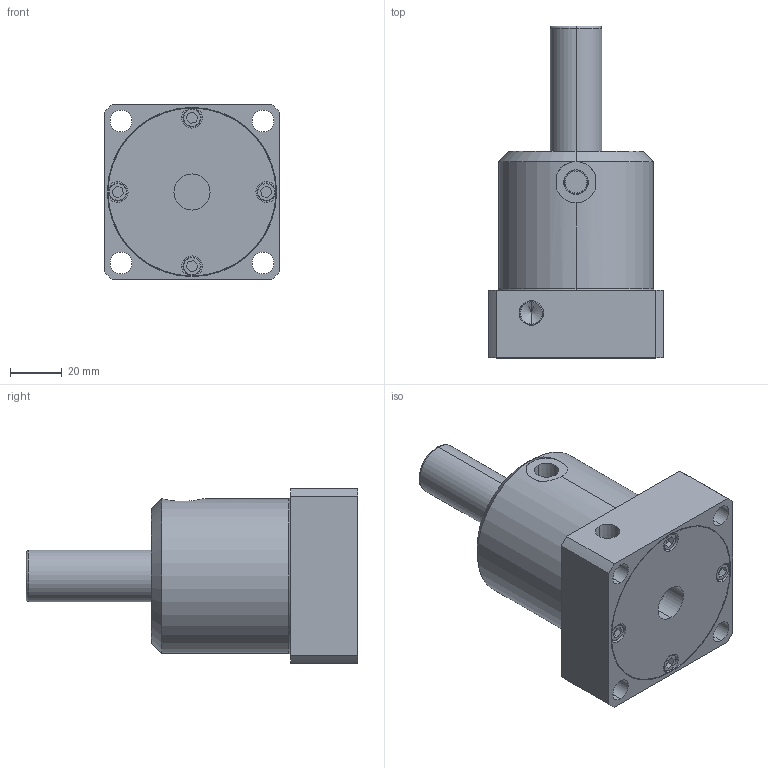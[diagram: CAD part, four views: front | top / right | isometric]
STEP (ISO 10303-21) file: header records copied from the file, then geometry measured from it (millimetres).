
FILE_DESCRIPTION((''),'2;1');
FILE_NAME('001_DESTACO_035_910_ASM','2024-02-29T',('SYSTEM'),(''),'PRO/ENGINEER BY PARAMETRIC TECHNOLOGY CORPORATION, 2016360','PRO/ENGINEER BY PARAMETRIC TECHNOLOGY CORPORATION, 2016360','');
FILE_SCHEMA(('AUTOMOTIVE_DESIGN { 1 0 10303 214 1 1 1 1 }'));
Products named in the file (10): 250BODY_6; 250BODY_4; 250BODY_3; 2; 250BODY_2; 250BODY_0; 250-BODY_ASM; 250BODY_1; 250-SHAFT_ASM; 001_DESTACO_035_910_ASM
Assembly tree (9 placements, depth 3):
  001_DESTACO_035_910_ASM
    250-BODY_ASM
      250BODY_6
      250BODY_4
      250BODY_3
      2
      250BODY_2
      250BODY_0
    250-SHAFT_ASM
      250BODY_1
Bounding box: 68 x 128.51 x 68 mm (x, y, z)
Volume: 265960.4 mm3; surface area: 51713.5 mm2
Topology: 7 solids, 7 shells, 162 faces, 376 edges, 238 vertices
Faces by surface type: cylinder 68, plane 60, cone 30, torus 4
Entity records: 6568 total; most frequent: DIRECTION 922, CARTESIAN_POINT 916, ORIENTED_EDGE 740, PRESENTATION_STYLE_ASSIGNMENT 377, STYLED_ITEM 377, CURVE_STYLE 370, EDGE_CURVE 370, AXIS2_PLACEMENT_3D 368
